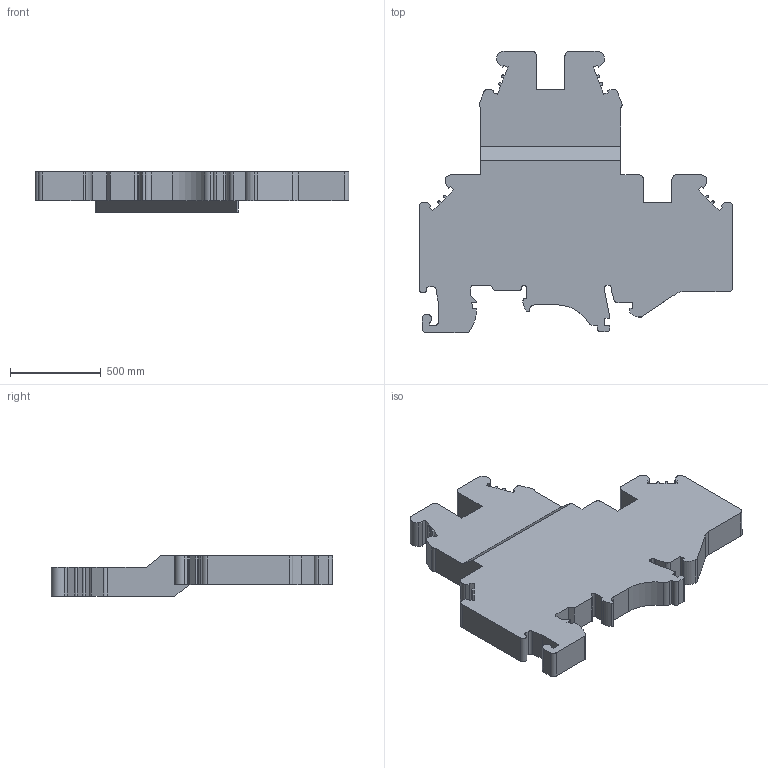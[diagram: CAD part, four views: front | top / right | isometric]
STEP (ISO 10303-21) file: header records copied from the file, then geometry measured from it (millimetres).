
FILE_DESCRIPTION((''),'2;1');
FILE_NAME('PRT0001','2022-04-18T',('Administrator'),(''),'PRO/ENGINEER BY PARAMETRIC TECHNOLOGY CORPORATION, 2008020','PRO/ENGINEER BY PARAMETRIC TECHNOLOGY CORPORATION, 2008020','');
FILE_SCHEMA(('CONFIG_CONTROL_DESIGN'));
Length unit declared in the file: inch
Products named in the file (1): PRT0001
Bounding box: 1727.2 x 1549.4 x 220.98 mm (x, y, z)
Volume: 253067204.3 mm3; surface area: 4966125.3 mm2
Topology: 1 solids, 1 shells, 362 faces, 1035 edges, 690 vertices
Faces by surface type: plane 294, cylinder 68
Entity records: 11735 total; most frequent: CARTESIAN_POINT 2087, ORIENTED_EDGE 2070, DIRECTION 1895, EDGE_CURVE 1035, VECTOR 899, LINE 899, VERTEX_POINT 690, AXIS2_PLACEMENT_3D 498
